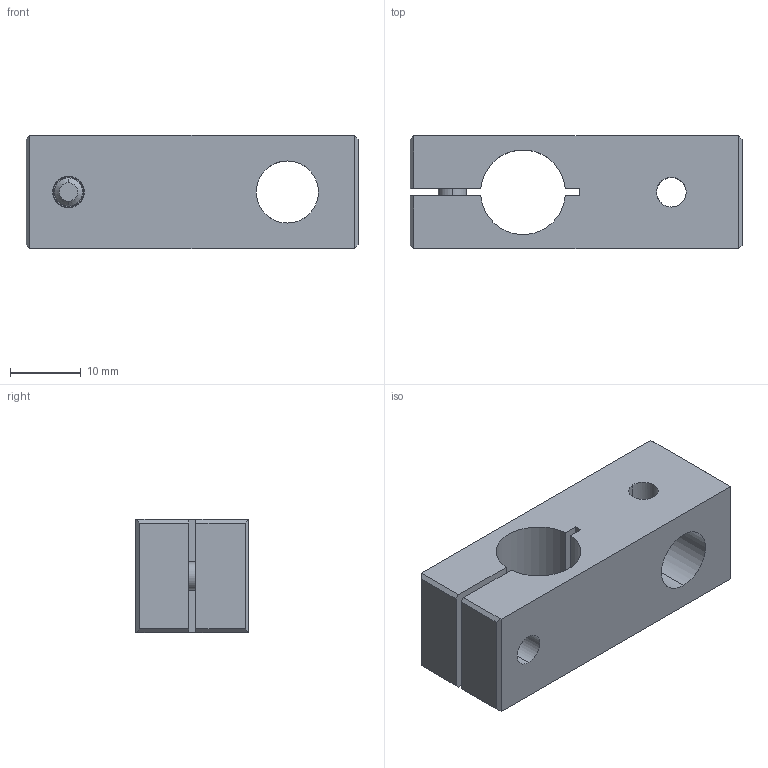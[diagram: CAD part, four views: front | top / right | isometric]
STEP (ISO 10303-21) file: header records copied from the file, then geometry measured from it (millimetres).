
FILE_DESCRIPTION (( 'STEP AP214' ), '1' );
FILE_NAME ('SMBG1-12G18T.STEP', '2022-12-29T07:25:12', ( 'Windows User' ), ( 'P R C' ), 'SwSTEP 2.0', 'SolidWorks 2018', '' );
FILE_SCHEMA (( 'AUTOMOTIVE_DESIGN' ));
Length unit declared in the file: millimetre
Products named in the file (1): SMBG1-12G18T
Bounding box: 47 x 16.1 x 16 mm (x, y, z)
Volume: 8788.4 mm3; surface area: 5114.8 mm2
Topology: 3 solids, 3 shells, 251 faces, 716 edges, 470 vertices
Faces by surface type: plane 225, cylinder 22, cone 2, bspline 2
Entity records: 11232 total; most frequent: CARTESIAN_POINT 1664, DIRECTION 1432, ORIENTED_EDGE 1432, EDGE_CURVE 716, VECTOR 480, LINE 480, AXIS2_PLACEMENT_3D 476, VERTEX_POINT 470
